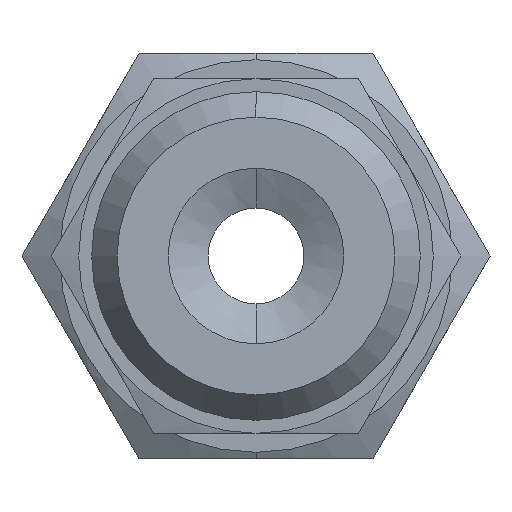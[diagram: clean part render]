
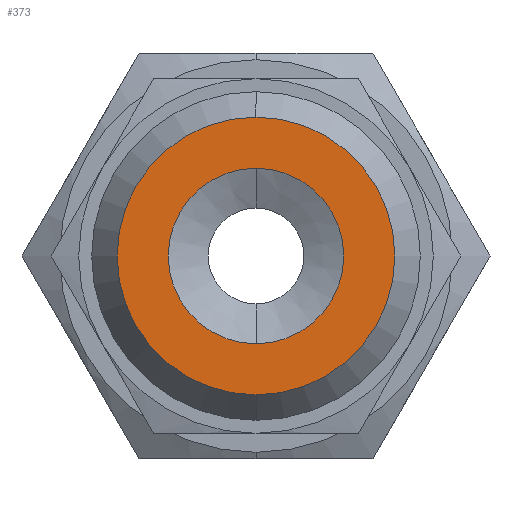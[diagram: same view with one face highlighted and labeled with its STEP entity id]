
A CAD part, left-side view. The second image highlights one B-rep face of the part: STEP entity #373.
In plain terms, the highlighted planar face has unit normal (-1, 0, 0).
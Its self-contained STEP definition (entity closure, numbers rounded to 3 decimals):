
#134 = EDGE_CURVE ( 'NONE', #135, #136, #878, .T. ) ;
#135 = VERTEX_POINT ( 'NONE', #807 ) ;
#136 = VERTEX_POINT ( 'NONE', #806 ) ;
#148 = VERTEX_POINT ( 'NONE', #782 ) ;
#150 = EDGE_CURVE ( 'NONE', #148, #151, #781, .T. ) ;
#151 = VERTEX_POINT ( 'NONE', #932 ) ;
#158 = ORIENTED_EDGE ( 'NONE', *, *, #159, .T. ) ;
#159 = EDGE_CURVE ( 'NONE', #136, #135, #926, .T. ) ;
#160 = ORIENTED_EDGE ( 'NONE', *, *, #134, .T. ) ;
#178 = EDGE_LOOP ( 'NONE', ( #158, #160 ) ) ;
#372 = EDGE_CURVE ( 'NONE', #151, #148, #1247, .T. ) ;
#373 = ADVANCED_FACE ( 'NONE', ( #1242, #1241 ), #1240, .T. ) ;
#374 = EDGE_LOOP ( 'NONE', ( #375, #376 ) ) ;
#375 = ORIENTED_EDGE ( 'NONE', *, *, #372, .F. ) ;
#376 = ORIENTED_EDGE ( 'NONE', *, *, #150, .F. ) ;
#778 = DIRECTION ( 'NONE',  ( -1., 0., 0. ) ) ;
#779 = CARTESIAN_POINT ( 'NONE',  ( -9.7, 0., 0. ) ) ;
#780 = AXIS2_PLACEMENT_3D ( 'NONE', #779, #778, #933 ) ;
#781 = CIRCLE ( 'NONE', #780, 2.75 ) ;
#782 = CARTESIAN_POINT ( 'NONE',  ( -9.7, 0., -2.75 ) ) ;
#806 = CARTESIAN_POINT ( 'NONE',  ( -9.7, 0., 4.35 ) ) ;
#807 = CARTESIAN_POINT ( 'NONE',  ( -9.7, 0., -4.35 ) ) ;
#870 = DIRECTION ( 'NONE',  ( 0., 0., 1. ) ) ;
#871 = DIRECTION ( 'NONE',  ( -1., 0., 0. ) ) ;
#872 = CARTESIAN_POINT ( 'NONE',  ( -9.7, 0., 0. ) ) ;
#873 = AXIS2_PLACEMENT_3D ( 'NONE', #872, #871, #870 ) ;
#878 = CIRCLE ( 'NONE', #873, 4.35 ) ;
#917 = DIRECTION ( 'NONE',  ( 0., 0., 1. ) ) ;
#918 = DIRECTION ( 'NONE',  ( -1., 0., 0. ) ) ;
#919 = CARTESIAN_POINT ( 'NONE',  ( -9.7, 0., 0. ) ) ;
#920 = AXIS2_PLACEMENT_3D ( 'NONE', #919, #918, #917 ) ;
#926 = CIRCLE ( 'NONE', #920, 4.35 ) ;
#932 = CARTESIAN_POINT ( 'NONE',  ( -9.7, 0., 2.75 ) ) ;
#933 = DIRECTION ( 'NONE',  ( 0., 0., 1. ) ) ;
#1236 = DIRECTION ( 'NONE',  ( 0., 0., 1. ) ) ;
#1237 = DIRECTION ( 'NONE',  ( -1., 0., 0. ) ) ;
#1238 = AXIS2_PLACEMENT_3D ( 'NONE', #1239, #1237, #1236 ) ;
#1239 = CARTESIAN_POINT ( 'NONE',  ( -9.7, 0., 0. ) ) ;
#1240 = PLANE ( 'NONE',  #1238 ) ;
#1241 = FACE_OUTER_BOUND ( 'NONE', #178, .T. ) ;
#1242 = FACE_BOUND ( 'NONE', #374, .T. ) ;
#1243 = DIRECTION ( 'NONE',  ( 0., 0., 1. ) ) ;
#1244 = DIRECTION ( 'NONE',  ( -1., 0., 0. ) ) ;
#1245 = CARTESIAN_POINT ( 'NONE',  ( -9.7, 0., 0. ) ) ;
#1246 = AXIS2_PLACEMENT_3D ( 'NONE', #1245, #1244, #1243 ) ;
#1247 = CIRCLE ( 'NONE', #1246, 2.75 ) ;
